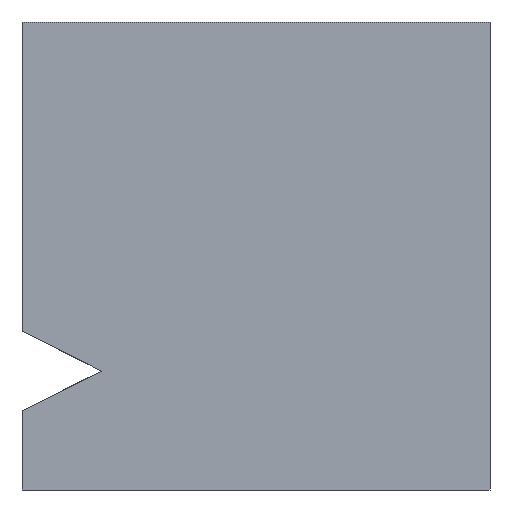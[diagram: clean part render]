
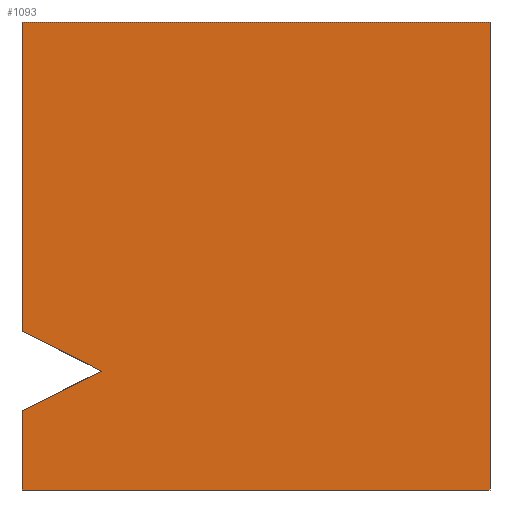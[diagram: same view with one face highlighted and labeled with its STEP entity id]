
A CAD part, left-side view. The second image highlights one B-rep face of the part: STEP entity #1093.
In plain terms, the highlighted planar face has unit normal (-1, 0, 0).
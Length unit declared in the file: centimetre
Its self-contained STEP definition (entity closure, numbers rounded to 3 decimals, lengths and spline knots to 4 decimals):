
#20 = DIRECTION ( 'NONE',  ( 0., 0., -1. ) ) ;
#45 = ORIENTED_EDGE ( 'NONE', *, *, #1238, .T. ) ;
#79 = CARTESIAN_POINT ( 'NONE',  ( 0., 1000., 169.286 ) ) ;
#103 = VERTEX_POINT ( 'NONE', #753 ) ;
#113 = LINE ( 'NONE', #501, #1109 ) ;
#173 = VERTEX_POINT ( 'NONE', #377 ) ;
#209 = CARTESIAN_POINT ( 'NONE',  ( 0., 1000., 1000. ) ) ;
#267 = CARTESIAN_POINT ( 'NONE',  ( 0., 1000., 1000. ) ) ;
#288 = VECTOR ( 'NONE', #479, 100. ) ;
#292 = ORIENTED_EDGE ( 'NONE', *, *, #1421, .F. ) ;
#345 = PLANE ( 'NONE',  #1763 ) ;
#355 = VECTOR ( 'NONE', #1408, 100. ) ;
#377 = CARTESIAN_POINT ( 'NONE',  ( 0., 1000., 1000. ) ) ;
#415 = EDGE_CURVE ( 'NONE', #1477, #103, #758, .T. ) ;
#416 = CARTESIAN_POINT ( 'NONE',  ( 0., 1000., 1000. ) ) ;
#431 = VECTOR ( 'NONE', #1301, 100. ) ;
#450 = FACE_OUTER_BOUND ( 'NONE', #499, .T. ) ;
#479 = DIRECTION ( 'NONE',  ( 0., -1., 0. ) ) ;
#499 = EDGE_LOOP ( 'NONE', ( #45, #1292, #508, #1726, #1473, #292, #1646 ) ) ;
#501 = CARTESIAN_POINT ( 'NONE',  ( 0., 830.6134, 254.2156 ) ) ;
#505 = CARTESIAN_POINT ( 'NONE',  ( 0., 830.6134, 254.2156 ) ) ;
#508 = ORIENTED_EDGE ( 'NONE', *, *, #542, .F. ) ;
#542 = EDGE_CURVE ( 'NONE', #1369, #598, #1440, .T. ) ;
#590 = CARTESIAN_POINT ( 'NONE',  ( 0., 0., 1000. ) ) ;
#598 = VERTEX_POINT ( 'NONE', #505 ) ;
#725 = VECTOR ( 'NONE', #1325, 100. ) ;
#737 = CARTESIAN_POINT ( 'NONE',  ( 0., 1000., 169.286 ) ) ;
#753 = CARTESIAN_POINT ( 'NONE',  ( 0., 0., 0. ) ) ;
#758 = LINE ( 'NONE', #1173, #288 ) ;
#830 = LINE ( 'NONE', #416, #355 ) ;
#865 = CARTESIAN_POINT ( 'NONE',  ( 0., 1000., 339.1452 ) ) ;
#867 = DIRECTION ( 'NONE',  ( 1., 0., 0. ) ) ;
#928 = DIRECTION ( 'NONE',  ( 0., 0.894, 0.448 ) ) ;
#1025 = LINE ( 'NONE', #590, #725 ) ;
#1071 = EDGE_CURVE ( 'NONE', #1369, #1477, #830, .T. ) ;
#1093 = ADVANCED_FACE ( 'NONE', ( #450 ), #345, .F. ) ;
#1109 = VECTOR ( 'NONE', #928, 100. ) ;
#1170 = DIRECTION ( 'NONE',  ( 0., 0., -1. ) ) ;
#1173 = CARTESIAN_POINT ( 'NONE',  ( 0., 1000., 0. ) ) ;
#1203 = VECTOR ( 'NONE', #20, 100. ) ;
#1238 = EDGE_CURVE ( 'NONE', #173, #1431, #1706, .T. ) ;
#1292 = ORIENTED_EDGE ( 'NONE', *, *, #1523, .F. ) ;
#1301 = DIRECTION ( 'NONE',  ( 0., -0.894, 0.448 ) ) ;
#1325 = DIRECTION ( 'NONE',  ( 0., 0., -1. ) ) ;
#1362 = CARTESIAN_POINT ( 'NONE',  ( 0., 1000., 0. ) ) ;
#1369 = VERTEX_POINT ( 'NONE', #79 ) ;
#1408 = DIRECTION ( 'NONE',  ( 0., 0., -1. ) ) ;
#1421 = EDGE_CURVE ( 'NONE', #1515, #103, #1025, .T. ) ;
#1431 = VERTEX_POINT ( 'NONE', #865 ) ;
#1437 = VECTOR ( 'NONE', #1623, 100. ) ;
#1440 = LINE ( 'NONE', #737, #431 ) ;
#1469 = EDGE_CURVE ( 'NONE', #173, #1515, #1777, .T. ) ;
#1473 = ORIENTED_EDGE ( 'NONE', *, *, #415, .T. ) ;
#1477 = VERTEX_POINT ( 'NONE', #1362 ) ;
#1515 = VERTEX_POINT ( 'NONE', #1759 ) ;
#1523 = EDGE_CURVE ( 'NONE', #598, #1431, #113, .T. ) ;
#1541 = CARTESIAN_POINT ( 'NONE',  ( 0., 1000., 1000. ) ) ;
#1623 = DIRECTION ( 'NONE',  ( 0., -1., 0. ) ) ;
#1646 = ORIENTED_EDGE ( 'NONE', *, *, #1469, .F. ) ;
#1706 = LINE ( 'NONE', #1541, #1203 ) ;
#1726 = ORIENTED_EDGE ( 'NONE', *, *, #1071, .T. ) ;
#1759 = CARTESIAN_POINT ( 'NONE',  ( 0., 0., 1000. ) ) ;
#1763 = AXIS2_PLACEMENT_3D ( 'NONE', #209, #867, #1170 ) ;
#1777 = LINE ( 'NONE', #267, #1437 ) ;
